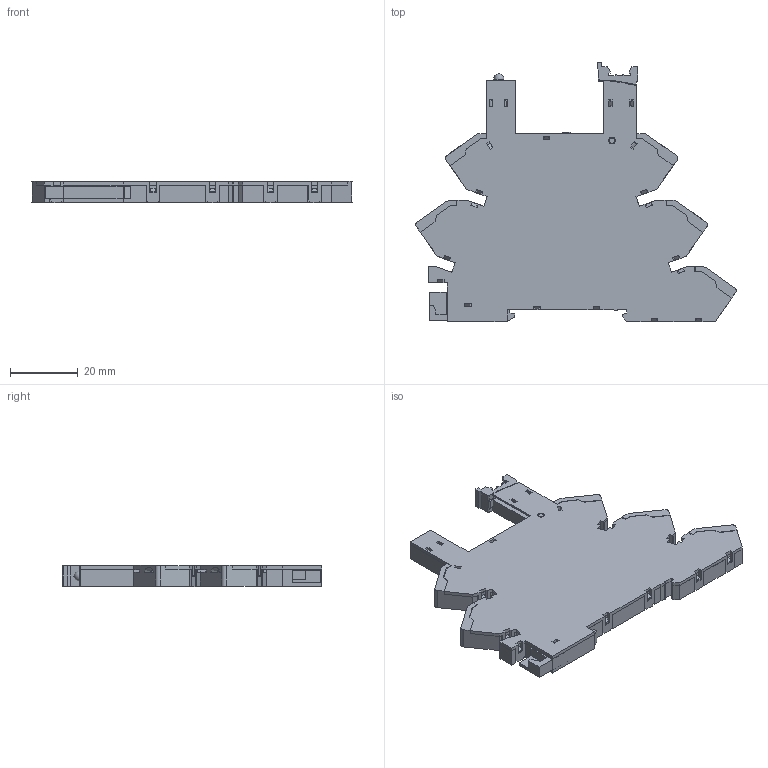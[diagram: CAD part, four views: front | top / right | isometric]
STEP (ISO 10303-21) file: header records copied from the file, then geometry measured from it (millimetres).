
FILE_DESCRIPTION(/* description */ (''),/* implementation_level */ '2;1');
FILE_NAME(/* name */ '41F-1Z-C4_stp.stp',/* time_stamp */ '2018-12-28T12:41:50+08:00',/* author */ (''),/* organization */ (''),/* preprocessor_version */ 'ST-DEVELOPER v15',/* originating_system */ 'SIEMENS PLM Software NX 8.5',/* authorisation */ '');
FILE_SCHEMA (('CONFIG_CONTROL_DESIGN'));
Length unit declared in the file: millimetre
Products named in the file (7): 89331050000; COVER 100712; BASE 100712; 82720003000; 82050007000; 55680007000_PCB4; 41F-1Z-C4_stp
Assembly tree (6 placements, depth 3):
  41F-1Z-C4_stp
    82050007000
    82720003000
    55680007000_PCB4
      89331050000
    BASE 100712
    COVER 100712
Bounding box: 94.69 x 76.6 x 6.3 mm (x, y, z)
Volume: 26053.4 mm3; surface area: 23271.6 mm2
Topology: 7 solids, 7 shells, 1379 faces, 3751 edges, 2433 vertices
Faces by surface type: plane 1300, cylinder 64, cone 13, torus 1, sphere 1
Full cylindrical faces by diameter (mm): 1 x5, 1.8 x1, 1.9 x8, 2 x5, 3 x1
Entity records: 43140 total; most frequent: CARTESIAN_POINT 7578, ORIENTED_EDGE 7428, DIRECTION 6624, EDGE_CURVE 3714, LINE 3540, VECTOR 3540, VERTEX_POINT 2424, AXIS2_PLACEMENT_3D 1542
